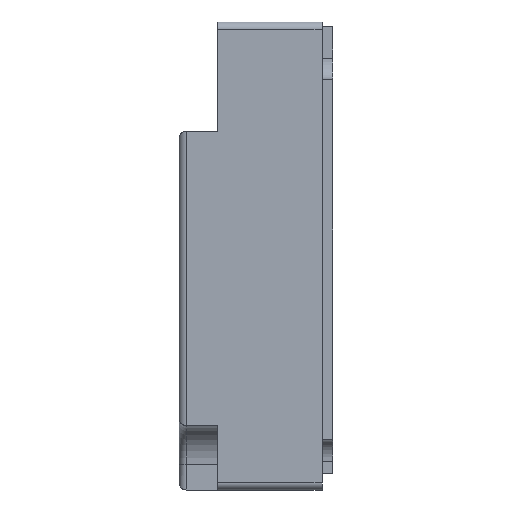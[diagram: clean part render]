
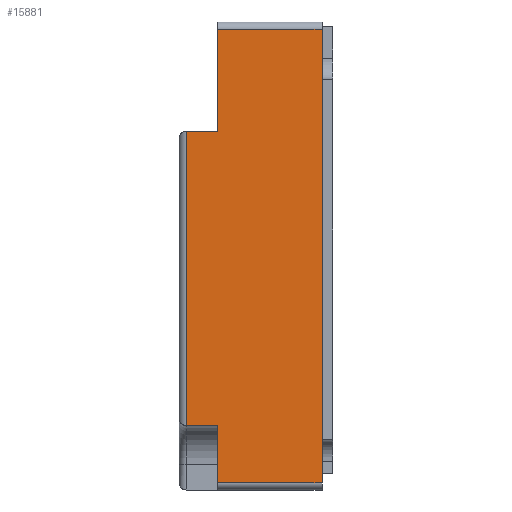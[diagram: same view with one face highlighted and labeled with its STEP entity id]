
A CAD part, left-side view. The second image highlights one B-rep face of the part: STEP entity #15881.
In plain terms, the highlighted planar face has unit normal (-1, 0, 0).
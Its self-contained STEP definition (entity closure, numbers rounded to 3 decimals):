
#15681 = EDGE_LOOP ( 'NONE', ( #15883, #15713, #15719, #15723, #15730, #15792, #15795, #15891 ) ) ;
#15713 = ORIENTED_EDGE ( 'NONE', *, *, #15714, .T. ) ;
#15714 = EDGE_CURVE ( 'NONE', #15887, #15717, #39397, .T. ) ;
#15717 = VERTEX_POINT ( 'NONE', #39393 ) ;
#15719 = ORIENTED_EDGE ( 'NONE', *, *, #15721, .F. ) ;
#15721 = EDGE_CURVE ( 'NONE', #15722, #15717, #39392, .T. ) ;
#15722 = VERTEX_POINT ( 'NONE', #39388 ) ;
#15723 = ORIENTED_EDGE ( 'NONE', *, *, #15724, .T. ) ;
#15724 = EDGE_CURVE ( 'NONE', #15722, #15727, #39387, .T. ) ;
#15727 = VERTEX_POINT ( 'NONE', #39383 ) ;
#15730 = ORIENTED_EDGE ( 'NONE', *, *, #15731, .T. ) ;
#15731 = EDGE_CURVE ( 'NONE', #15727, #15732, #39382, .T. ) ;
#15732 = VERTEX_POINT ( 'NONE', #39378 ) ;
#15792 = ORIENTED_EDGE ( 'NONE', *, *, #15793, .F. ) ;
#15793 = EDGE_CURVE ( 'NONE', #15794, #15732, #39445, .T. ) ;
#15794 = VERTEX_POINT ( 'NONE', #39441 ) ;
#15795 = ORIENTED_EDGE ( 'NONE', *, *, #15796, .F. ) ;
#15796 = EDGE_CURVE ( 'NONE', #15798, #15794, #39440, .T. ) ;
#15798 = VERTEX_POINT ( 'NONE', #39436 ) ;
#15881 = ADVANCED_FACE ( 'NONE', ( #39539 ), #39538, .F. ) ;
#15883 = ORIENTED_EDGE ( 'NONE', *, *, #15885, .F. ) ;
#15885 = EDGE_CURVE ( 'NONE', #15887, #15889, #39533, .T. ) ;
#15887 = VERTEX_POINT ( 'NONE', #39529 ) ;
#15889 = VERTEX_POINT ( 'NONE', #39592 ) ;
#15891 = ORIENTED_EDGE ( 'NONE', *, *, #15892, .T. ) ;
#15892 = EDGE_CURVE ( 'NONE', #15798, #15889, #39591, .T. ) ;
#39378 = CARTESIAN_POINT ( 'NONE',  ( 0., 9.726, -28.2 ) ) ;
#39379 = DIRECTION ( 'NONE',  ( 0., 0., -1. ) ) ;
#39380 = VECTOR ( 'NONE', #39379, 1000. ) ;
#39381 = CARTESIAN_POINT ( 'NONE',  ( 0., 9.726, 0. ) ) ;
#39382 = LINE ( 'NONE', #39381, #39380 ) ;
#39383 = CARTESIAN_POINT ( 'NONE',  ( 0., 9.726, -7.625 ) ) ;
#39384 = DIRECTION ( 'NONE',  ( 0., 1., 0. ) ) ;
#39385 = VECTOR ( 'NONE', #39384, 1000. ) ;
#39386 = CARTESIAN_POINT ( 'NONE',  ( 0., 7.526, -7.625 ) ) ;
#39387 = LINE ( 'NONE', #39386, #39385 ) ;
#39388 = CARTESIAN_POINT ( 'NONE',  ( 0., 7.526, -7.625 ) ) ;
#39389 = DIRECTION ( 'NONE',  ( 0., 0., 1. ) ) ;
#39390 = VECTOR ( 'NONE', #39389, 1000. ) ;
#39391 = CARTESIAN_POINT ( 'NONE',  ( 0., 7.526, 0. ) ) ;
#39392 = LINE ( 'NONE', #39391, #39390 ) ;
#39393 = CARTESIAN_POINT ( 'NONE',  ( 0., 7.526, -0.5 ) ) ;
#39394 = DIRECTION ( 'NONE',  ( 0., 1., 0. ) ) ;
#39395 = VECTOR ( 'NONE', #39394, 1000. ) ;
#39396 = CARTESIAN_POINT ( 'NONE',  ( 0., 10.226, -0.5 ) ) ;
#39397 = LINE ( 'NONE', #39396, #39395 ) ;
#39436 = CARTESIAN_POINT ( 'NONE',  ( 0., 7.526, -32.2 ) ) ;
#39437 = DIRECTION ( 'NONE',  ( 0., 0., 1. ) ) ;
#39438 = VECTOR ( 'NONE', #39437, 1000. ) ;
#39439 = CARTESIAN_POINT ( 'NONE',  ( 0., 7.526, -32.7 ) ) ;
#39440 = LINE ( 'NONE', #39439, #39438 ) ;
#39441 = CARTESIAN_POINT ( 'NONE',  ( 0., 7.526, -28.2 ) ) ;
#39442 = DIRECTION ( 'NONE',  ( 0., 1., 0. ) ) ;
#39443 = VECTOR ( 'NONE', #39442, 1000. ) ;
#39444 = CARTESIAN_POINT ( 'NONE',  ( 0., 7.526, -28.2 ) ) ;
#39445 = LINE ( 'NONE', #39444, #39443 ) ;
#39529 = CARTESIAN_POINT ( 'NONE',  ( 0., 0.24, -0.5 ) ) ;
#39530 = DIRECTION ( 'NONE',  ( 0., 0., -1. ) ) ;
#39531 = VECTOR ( 'NONE', #39530, 1000. ) ;
#39532 = CARTESIAN_POINT ( 'NONE',  ( 0., 0.24, -0.5 ) ) ;
#39533 = LINE ( 'NONE', #39532, #39531 ) ;
#39534 = DIRECTION ( 'NONE',  ( 0., 0., -1. ) ) ;
#39535 = DIRECTION ( 'NONE',  ( 1., 0., 0. ) ) ;
#39536 = CARTESIAN_POINT ( 'NONE',  ( 0., 10.226, 0. ) ) ;
#39537 = AXIS2_PLACEMENT_3D ( 'NONE', #39536, #39535, #39534 ) ;
#39538 = PLANE ( 'NONE',  #39537 ) ;
#39539 = FACE_OUTER_BOUND ( 'NONE', #15681, .T. ) ;
#39588 = DIRECTION ( 'NONE',  ( 0., -1., 0. ) ) ;
#39589 = VECTOR ( 'NONE', #39588, 1000. ) ;
#39590 = CARTESIAN_POINT ( 'NONE',  ( 0., 10.226, -32.2 ) ) ;
#39591 = LINE ( 'NONE', #39590, #39589 ) ;
#39592 = CARTESIAN_POINT ( 'NONE',  ( 0., 0.24, -32.2 ) ) ;
